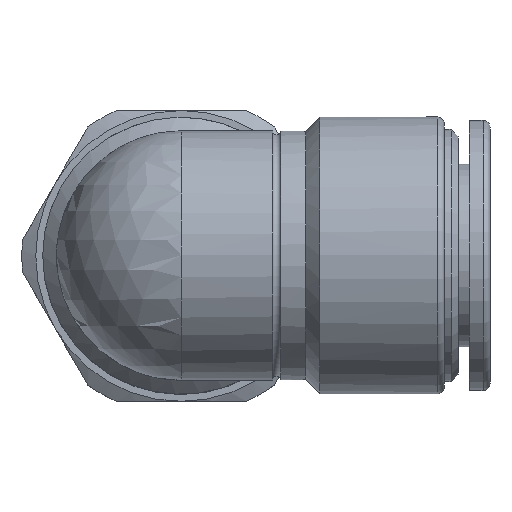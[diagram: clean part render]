
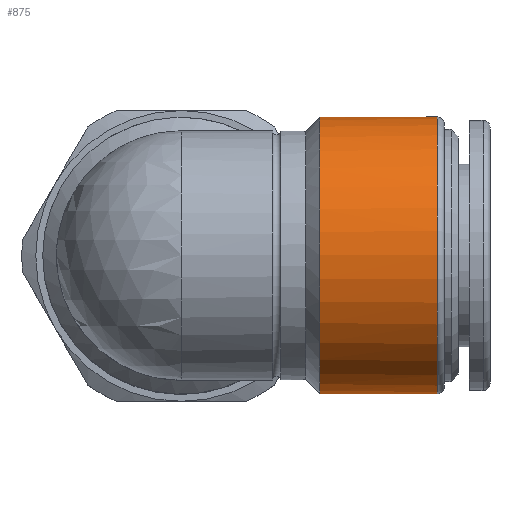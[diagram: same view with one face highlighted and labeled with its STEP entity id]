
A CAD part, top view. The second image highlights one B-rep face of the part: STEP entity #875.
In plain terms, the highlighted cylindrical face has radius 10 mm (diameter 20 mm), a full revolution.
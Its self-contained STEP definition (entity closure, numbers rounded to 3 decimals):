
#48=LINE($,#1598,#76);
#53=LINE($,#1618,#81);
#76=VECTOR($,#1227,2.);
#81=VECTOR($,#1238,2.);
#98=CYLINDRICAL_SURFACE($,#994,10.);
#166=FACE_BOUND($,#295,.T.);
#220=FACE_OUTER_BOUND($,#294,.T.);
#294=EDGE_LOOP($,(#779));
#295=EDGE_LOOP($,(#780,#781,#782,#783,#784));
#354=CIRCLE($,#991,10.);
#355=CIRCLE($,#993,10.);
#356=CIRCLE($,#995,10.);
#357=CIRCLE($,#996,10.);
#432=VERTEX_POINT($,#1595);
#433=VERTEX_POINT($,#1597);
#436=VERTEX_POINT($,#1607);
#438=VERTEX_POINT($,#1613);
#439=VERTEX_POINT($,#1617);
#440=VERTEX_POINT($,#1628);
#544=EDGE_CURVE($,#433,#432,#48,.T.);
#552=EDGE_CURVE($,#439,#438,#53,.T.);
#556=EDGE_CURVE($,#436,#439,#354,.T.);
#557=EDGE_CURVE($,#432,#436,#355,.T.);
#558=EDGE_CURVE($,#440,#440,#356,.T.);
#559=EDGE_CURVE($,#433,#438,#357,.T.);
#779=ORIENTED_EDGE($,*,*,#558,.F.);
#780=ORIENTED_EDGE($,*,*,#544,.T.);
#781=ORIENTED_EDGE($,*,*,#557,.T.);
#782=ORIENTED_EDGE($,*,*,#556,.T.);
#783=ORIENTED_EDGE($,*,*,#552,.T.);
#784=ORIENTED_EDGE($,*,*,#559,.F.);
#875=ADVANCED_FACE($,(#220,#166),#98,.T.);
#991=AXIS2_PLACEMENT_3D($,#1624,#1248,#1249);
#993=AXIS2_PLACEMENT_3D($,#1626,#1252,#1253);
#994=AXIS2_PLACEMENT_3D($,#1627,#1254,#1255);
#995=AXIS2_PLACEMENT_3D($,#1629,#1256,#1257);
#996=AXIS2_PLACEMENT_3D($,#1630,#1258,#1259);
#1227=DIRECTION($,(1.,0.,0.));
#1238=DIRECTION($,(-1.,0.,0.));
#1248=DIRECTION('center_axis',(1.,0.,0.));
#1249=DIRECTION('ref_axis',(0.,0.,1.));
#1252=DIRECTION('center_axis',(1.,0.,0.));
#1253=DIRECTION('ref_axis',(0.,0.,1.));
#1254=DIRECTION('center_axis',(1.,0.,0.));
#1255=DIRECTION('ref_axis',(0.,0.,1.));
#1256=DIRECTION('center_axis',(1.,0.,0.));
#1257=DIRECTION('ref_axis',(0.,0.,1.));
#1258=DIRECTION('center_axis',(-1.,0.,0.));
#1259=DIRECTION('ref_axis',(0.,0.,1.));
#1595=CARTESIAN_POINT('',(12.,-0.75,-9.972));
#1597=CARTESIAN_POINT('',(10.,-0.75,-9.972));
#1598=CARTESIAN_POINT($,(9.,-0.75,-9.972));
#1607=CARTESIAN_POINT('',(12.,0.,-10.));
#1613=CARTESIAN_POINT('',(10.,0.75,-9.972));
#1617=CARTESIAN_POINT('',(12.,0.75,-9.972));
#1618=CARTESIAN_POINT($,(9.,0.75,-9.972));
#1624=CARTESIAN_POINT('Origin',(12.,0.,0.));
#1626=CARTESIAN_POINT('Origin',(12.,0.,0.));
#1627=CARTESIAN_POINT('Origin',(9.,0.,0.));
#1628=CARTESIAN_POINT('',(18.5,0.,-10.));
#1629=CARTESIAN_POINT('Origin',(18.5,0.,0.));
#1630=CARTESIAN_POINT('Origin',(10.,0.,0.));
